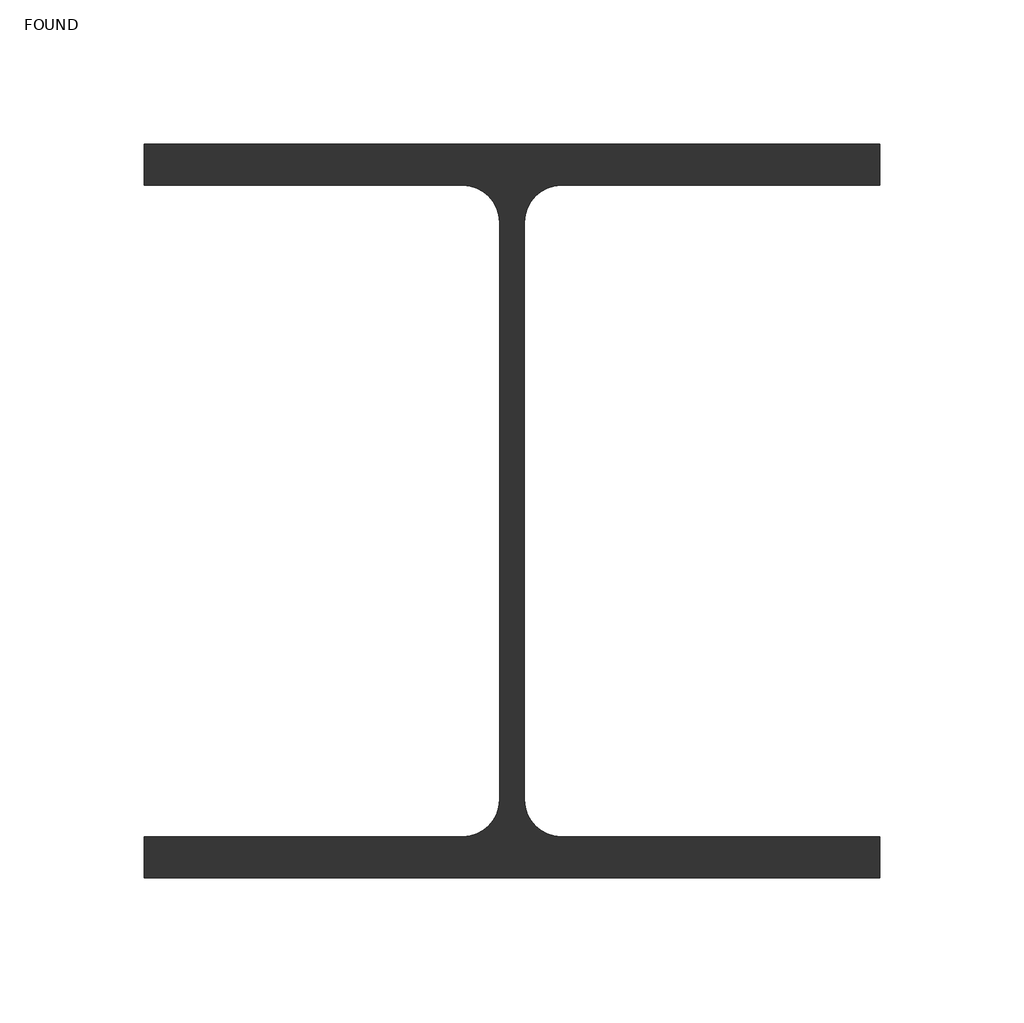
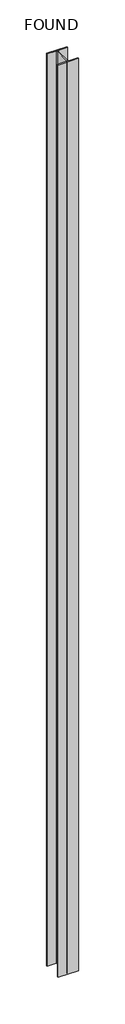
# One storey: 1 column.
"""IFC4 building model written with IfcOpenShell, lengths in millimetres."""

from ifc_helpers import new_model, si_unit, origin, place, context, project, spatial, transform, mapped, element, save
from components import uc_universal_columns_column_uc254x254x73_8008e7d4

model = new_model("IFC4")

# Units and contexts
model_context = context("Model", 3, world=origin())
ifc_project = project(units=[si_unit("LENGTHUNIT", "METRE", prefix="MILLI")], contexts=[model_context])

# Site, building, storey
site = spatial("IfcSite", under=ifc_project)
building = spatial("IfcBuilding", under=site)
storey = spatial("IfcBuildingStorey", under=building, Name="FOUND", Elevation=-1000.0)

# Column
placement = place(None, origin())
uc_universal_columns_column_uc254x254x73_shape = uc_universal_columns_column_uc254x254x73_8008e7d4(model_context)
element("IfcColumn", 1, ObjectType="UC-Universal Columns-Column : UC254x254x73", at=placement, inside=storey, context=model_context, shape_type="MappedRepresentation", body=[
    mapped(uc_universal_columns_column_uc254x254x73_shape, transform((457679.3206883, -408141.0026386, 0.0), x_axis=(-1.0, 0.0, 0.0), y_axis=(0.0, -1.0, 0.0), z_axis=(0.0, 0.0, 1.0))),
])

save(model, "model.ifc")
